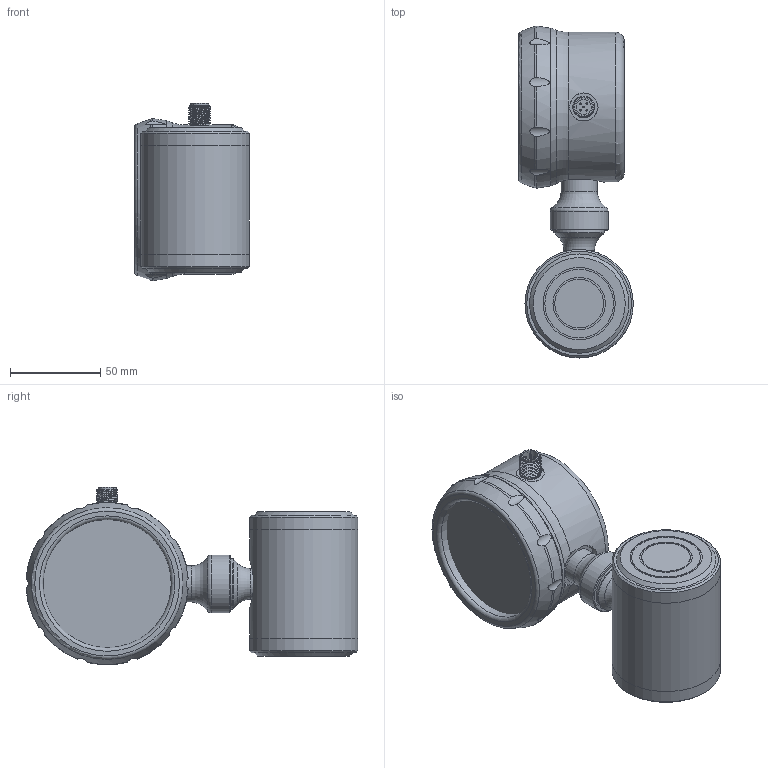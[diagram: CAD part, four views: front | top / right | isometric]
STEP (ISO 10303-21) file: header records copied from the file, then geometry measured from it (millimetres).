
FILE_DESCRIPTION( (''), '2;1');
FILE_NAME( 'QMKD_DN8_H25.4_tie-rod.step', '2024-08-30T09:02:01+08:00', (''), (''), '', '', '');
FILE_SCHEMA (('AUTOMOTIVE_DESIGN { 1 0 10303 214 3 1 1 1 }'));
Length unit declared in the file: millimetre
Products named in the file (1): QMKD DN8_H25.4_tie-rod
Bounding box: 63.5 x 183.81 x 98.4 mm (x, y, z)
Volume: 582661.8 mm3; surface area: 90922.2 mm2
Topology: 9 solids, 9 shells, 202 faces, 464 edges, 297 vertices
Faces by surface type: cylinder 86, plane 46, cone 20, sphere 20, torus 18, bspline 12
Full cylindrical faces by diameter (mm): 11.6 x2, 15 x2, 15.5 x1, 17 x1, 18 x2, 20 x1, 26 x1, 28 x1, 32 x1, 54 x2, 60 x3, 71 x1, 80 x2, 83 x1
Entity records: 8112 total; most frequent: CARTESIAN_POINT 3924, DIRECTION 851, ORIENTED_EDGE 766, AXIS2_PLACEMENT_3D 394, EDGE_CURVE 383, EDGE_LOOP 279, VERTEX_POINT 276, CIRCLE 204
